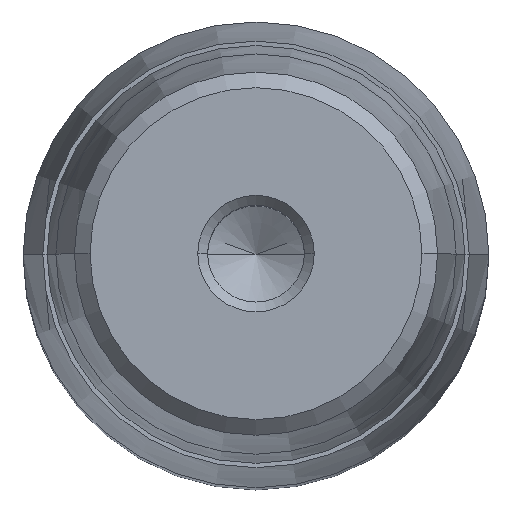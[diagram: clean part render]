
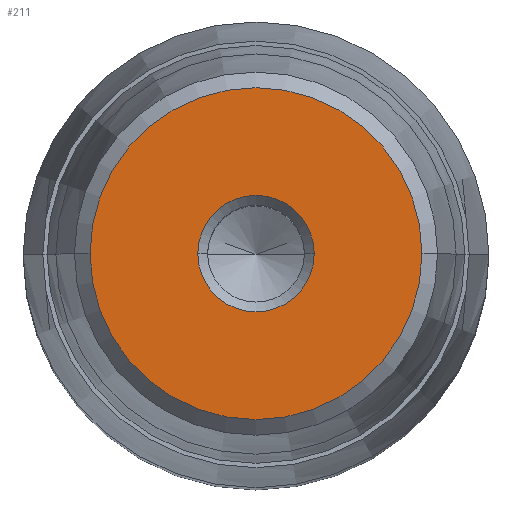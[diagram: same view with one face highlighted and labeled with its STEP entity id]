
A CAD part, top view. The second image highlights one B-rep face of the part: STEP entity #211.
In plain terms, the highlighted planar face has unit normal (0, 0, 1).
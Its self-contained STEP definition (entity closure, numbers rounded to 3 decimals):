
#136=CARTESIAN_POINT('Axis2P3D Location',(0.,0.,48.)) ;
#140=CARTESIAN_POINT('Vertex',(-4.,0.,48.)) ;
#142=CARTESIAN_POINT('Vertex',(4.,0.,48.)) ;
#179=CARTESIAN_POINT('Axis2P3D Location',(0.,4.,48.)) ;
#184=CARTESIAN_POINT('Axis2P3D Location',(0.,0.,48.)) ;
#188=CARTESIAN_POINT('Vertex',(-11.4,0.,48.)) ;
#190=CARTESIAN_POINT('Vertex',(11.4,0.,48.)) ;
#193=CARTESIAN_POINT('Axis2P3D Location',(0.,0.,48.)) ;
#202=CARTESIAN_POINT('Axis2P3D Location',(0.,0.,48.)) ;
#137=DIRECTION('Axis2P3D Direction',(0.,-0.,1.)) ;
#180=DIRECTION('Axis2P3D Direction',(0.,0.,-1.)) ;
#181=DIRECTION('Axis2P3D XDirection',(-1.,0.,0.)) ;
#185=DIRECTION('Axis2P3D Direction',(0.,0.,-1.)) ;
#194=DIRECTION('Axis2P3D Direction',(0.,0.,-1.)) ;
#203=DIRECTION('Axis2P3D Direction',(0.,0.,-1.)) ;
#138=AXIS2_PLACEMENT_3D('Circle Axis2P3D',#136,#137,$) ;
#182=AXIS2_PLACEMENT_3D('Plane Axis2P3D',#179,#180,#181) ;
#186=AXIS2_PLACEMENT_3D('Circle Axis2P3D',#184,#185,$) ;
#195=AXIS2_PLACEMENT_3D('Circle Axis2P3D',#193,#194,$) ;
#204=AXIS2_PLACEMENT_3D('Circle Axis2P3D',#202,#203,$) ;
#199=ORIENTED_EDGE('',*,*,#192,.F.) ;
#200=ORIENTED_EDGE('',*,*,#197,.F.) ;
#208=ORIENTED_EDGE('',*,*,#206,.T.) ;
#209=ORIENTED_EDGE('',*,*,#144,.T.) ;
#210=FACE_BOUND('',#207,.T.) ;
#211=ADVANCED_FACE('722-32x112x145',(#201,#210),#183,.F.) ;
#139=CIRCLE('generated circle',#138,4.) ;
#187=CIRCLE('generated circle',#186,11.4) ;
#196=CIRCLE('generated circle',#195,11.4) ;
#205=CIRCLE('generated circle',#204,4.) ;
#144=EDGE_CURVE('',#141,#143,#139,.F.) ;
#192=EDGE_CURVE('',#189,#191,#187,.T.) ;
#197=EDGE_CURVE('',#191,#189,#196,.T.) ;
#206=EDGE_CURVE('',#143,#141,#205,.T.) ;
#198=EDGE_LOOP('',(#199,#200)) ;
#207=EDGE_LOOP('',(#208,#209)) ;
#201=FACE_OUTER_BOUND('',#198,.T.) ;
#183=PLANE('Plane',#182) ;
#141=VERTEX_POINT('',#140) ;
#143=VERTEX_POINT('',#142) ;
#189=VERTEX_POINT('',#188) ;
#191=VERTEX_POINT('',#190) ;
